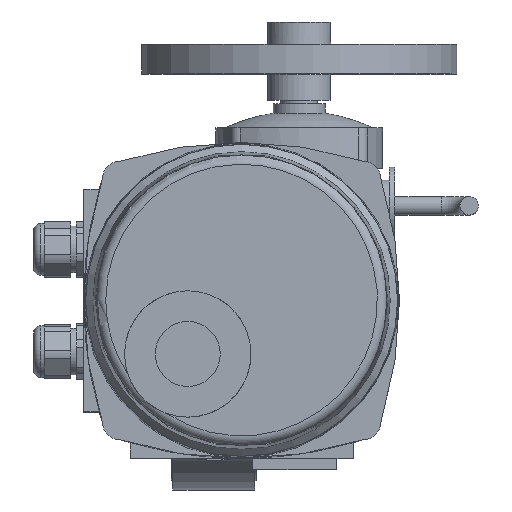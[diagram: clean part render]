
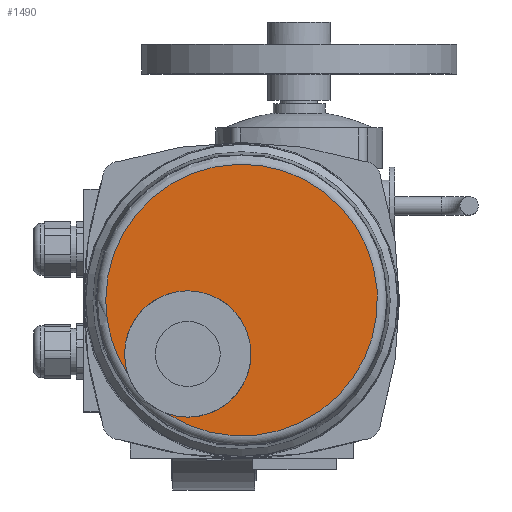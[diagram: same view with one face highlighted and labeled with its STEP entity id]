
A CAD part, top view. The second image highlights one B-rep face of the part: STEP entity #1490.
In plain terms, the highlighted planar face has unit normal (0, 0, 1).
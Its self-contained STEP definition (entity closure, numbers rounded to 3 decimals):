
#1490=ADVANCED_FACE('',(#8876),#8878,.T.);
#8876=FACE_BOUND('',#8877,.T.);
#8877=EDGE_LOOP('',(#14806,#14807,#14808,#14809));
#8878=PLANE('',#8879);
#8879=AXIS2_PLACEMENT_3D('',#8880,#8881,#8882);
#8880=CARTESIAN_POINT('',(15.,35.,417.));
#8881=DIRECTION('',(0.,0.,1.));
#8882=DIRECTION('',(-1.,0.,0.));
#14806=ORIENTED_EDGE('',*,*,#19023,.F.);
#14807=ORIENTED_EDGE('',*,*,#19024,.F.);
#14808=ORIENTED_EDGE('',*,*,#19010,.F.);
#14809=ORIENTED_EDGE('',*,*,#19009,.F.);
#19009=EDGE_CURVE('',#21576,#21579,#21580,.T.);
#19010=EDGE_CURVE('',#21579,#21577,#21581,.T.);
#19023=EDGE_CURVE('',#21602,#21576,#21603,.T.);
#19024=EDGE_CURVE('',#21577,#21602,#21604,.T.);
#21576=VERTEX_POINT('',#26627);
#21577=VERTEX_POINT('',#26628);
#21579=VERTEX_POINT('',#26657);
#21580=CIRCLE('',#26658,73.139);
#21581=CIRCLE('',#26662,73.139);
#21602=VERTEX_POINT('',#26715);
#21603=CIRCLE('',#26716,34.);
#21604=CIRCLE('',#26720,34.);
#26627=CARTESIAN_POINT('',(-46.08,-5.231,417.));
#26628=CARTESIAN_POINT('',(-25.231,-26.08,417.));
#26657=CARTESIAN_POINT('',(-58.139,35.,417.));
#26658=AXIS2_PLACEMENT_3D('',#26659,#26660,#26661);
#26659=CARTESIAN_POINT('',(15.,35.,417.));
#26660=DIRECTION('',(0.,0.,-1.));
#26661=DIRECTION('',(-0.835,-0.55,0.));
#26662=AXIS2_PLACEMENT_3D('',#26663,#26664,#26665);
#26663=CARTESIAN_POINT('',(15.,35.,417.));
#26664=DIRECTION('',(0.,0.,-1.));
#26665=DIRECTION('',(-1.,0.,0.));
#26715=CARTESIAN_POINT('',(-13.991,40.009,417.));
#26716=AXIS2_PLACEMENT_3D('',#26717,#26718,#26719);
#26717=CARTESIAN_POINT('',(-13.991,6.009,417.));
#26718=DIRECTION('',(0.,0.,1.));
#26719=DIRECTION('',(0.,1.,0.));
#26720=AXIS2_PLACEMENT_3D('',#26721,#26722,#26723);
#26721=CARTESIAN_POINT('',(-13.991,6.009,417.));
#26722=DIRECTION('',(0.,0.,1.));
#26723=DIRECTION('',(-0.331,-0.944,0.));
